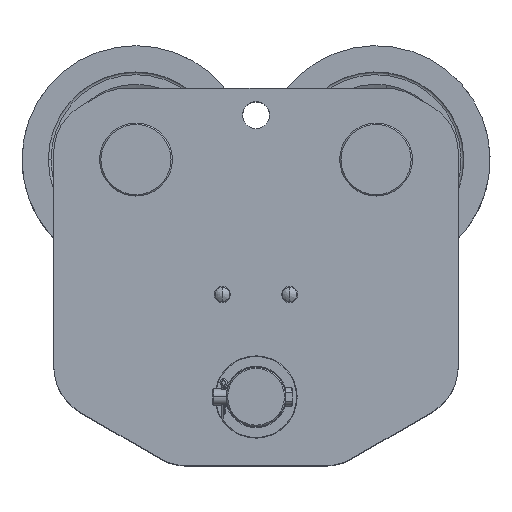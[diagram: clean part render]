
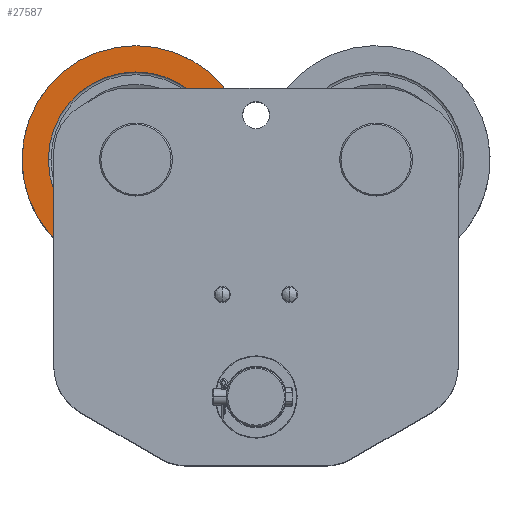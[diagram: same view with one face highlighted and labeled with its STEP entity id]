
A CAD part, top view. The second image highlights one B-rep face of the part: STEP entity #27587.
In plain terms, the highlighted planar face has unit normal (0, 0, 1) as drawn and (-1, 0, 0) by its records, which use the part's own axes.
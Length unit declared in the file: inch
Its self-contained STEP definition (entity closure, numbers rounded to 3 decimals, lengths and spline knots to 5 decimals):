
#734 = ORIENTED_EDGE ( 'NONE', *, *, #23719, .T. ) ;
#3812 = DIRECTION ( 'NONE',  ( -1., 0., 0. ) ) ;
#4279 = AXIS2_PLACEMENT_3D ( 'NONE', #26069, #10662, #19600 ) ;
#4307 = AXIS2_PLACEMENT_3D ( 'NONE', #19421, #28171, #10905 ) ;
#5326 = DIRECTION ( 'NONE',  ( 0., 0., 1. ) ) ;
#7477 = CARTESIAN_POINT ( 'NONE',  ( 0., 0., 0. ) ) ;
#7651 = AXIS2_PLACEMENT_3D ( 'NONE', #7477, #25053, #5326 ) ;
#8580 = VERTEX_POINT ( 'NONE', #18586 ) ;
#9386 = EDGE_LOOP ( 'NONE', ( #734, #21390 ) ) ;
#9754 = CIRCLE ( 'NONE', #4307, 3.32677 ) ;
#10116 = EDGE_CURVE ( 'NONE', #8580, #18074, #26504, .T. ) ;
#10662 = DIRECTION ( 'NONE',  ( -1., 0., 0. ) ) ;
#10905 = DIRECTION ( 'NONE',  ( 0., 0., 1. ) ) ;
#11097 = AXIS2_PLACEMENT_3D ( 'NONE', #17556, #3812, #24170 ) ;
#11842 = CARTESIAN_POINT ( 'NONE',  ( 0., 0., -3.32677 ) ) ;
#12831 = PLANE ( 'NONE',  #22945 ) ;
#14157 = EDGE_LOOP ( 'NONE', ( #17211, #24322 ) ) ;
#15153 = CARTESIAN_POINT ( 'NONE',  ( 0., 0., 0. ) ) ;
#15447 = DIRECTION ( 'NONE',  ( 0., 0., -1. ) ) ;
#15743 = CIRCLE ( 'NONE', #4279, 2.55906 ) ;
#16096 = VERTEX_POINT ( 'NONE', #11842 ) ;
#17211 = ORIENTED_EDGE ( 'NONE', *, *, #24643, .F. ) ;
#17447 = DIRECTION ( 'NONE',  ( 1., 0., 0. ) ) ;
#17535 = VERTEX_POINT ( 'NONE', #26502 ) ;
#17556 = CARTESIAN_POINT ( 'NONE',  ( 0., 0., 0. ) ) ;
#18074 = VERTEX_POINT ( 'NONE', #26225 ) ;
#18586 = CARTESIAN_POINT ( 'NONE',  ( 0., 0., -2.55906 ) ) ;
#19421 = CARTESIAN_POINT ( 'NONE',  ( 0., 0., 0. ) ) ;
#19600 = DIRECTION ( 'NONE',  ( 0., 0., 1. ) ) ;
#19602 = EDGE_CURVE ( 'NONE', #16096, #17535, #9754, .T. ) ;
#20751 = CIRCLE ( 'NONE', #11097, 3.32677 ) ;
#21390 = ORIENTED_EDGE ( 'NONE', *, *, #19602, .T. ) ;
#22945 = AXIS2_PLACEMENT_3D ( 'NONE', #15153, #17447, #15447 ) ;
#23719 = EDGE_CURVE ( 'NONE', #17535, #16096, #20751, .T. ) ;
#24170 = DIRECTION ( 'NONE',  ( 0., 0., 1. ) ) ;
#24322 = ORIENTED_EDGE ( 'NONE', *, *, #10116, .F. ) ;
#24643 = EDGE_CURVE ( 'NONE', #18074, #8580, #15743, .T. ) ;
#25053 = DIRECTION ( 'NONE',  ( -1., 0., 0. ) ) ;
#25957 = FACE_OUTER_BOUND ( 'NONE', #9386, .T. ) ;
#26069 = CARTESIAN_POINT ( 'NONE',  ( 0., 0., 0. ) ) ;
#26219 = FACE_BOUND ( 'NONE', #14157, .T. ) ;
#26225 = CARTESIAN_POINT ( 'NONE',  ( 0., 0., 2.55906 ) ) ;
#26502 = CARTESIAN_POINT ( 'NONE',  ( 0., 0., 3.32677 ) ) ;
#26504 = CIRCLE ( 'NONE', #7651, 2.55906 ) ;
#27587 = ADVANCED_FACE ( 'NONE', ( #26219, #25957 ), #12831, .F. ) ;
#28171 = DIRECTION ( 'NONE',  ( -1., 0., 0. ) ) ;
